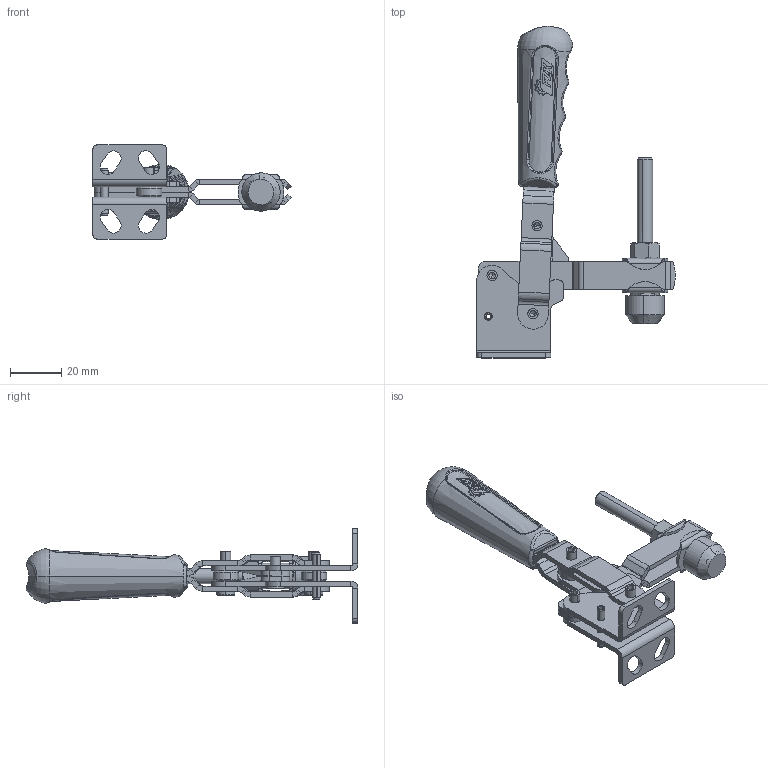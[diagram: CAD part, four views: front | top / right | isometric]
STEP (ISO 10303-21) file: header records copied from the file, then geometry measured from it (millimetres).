
FILE_DESCRIPTION (( 'STEP AP214' ), '1' );
FILE_NAME ('201_BLU.STEP', '2024-09-09T16:26:28', ( '' ), ( '' ), 'SwSTEP 2.0', 'SolidWorks 2023', '' );
FILE_SCHEMA (( 'AUTOMOTIVE_DESIGN' ));
Length unit declared in the file: millimetre
Products named in the file (17): FZK_201_B_02A_00; FZK_201_BL_01_00; M6 PUL DIN125; FZK_201_B_04_00; FZK_201_B_05_00; FZK_201_B_8_00; FZK_201_BLU_01_00; FZK_201_BL_02_00; hex bolt gradeb_din_ISO 4015 - M6 x 60 x 60-N; FZK_201_B_06_00; 201_BLU; spring pin slotted_hd_din_Spring Pin ISO 8752 - 3 x 18 - St; M6 PABUÇ; hex nut gradec_din_Hexagon Nut ISO 4034 - M6 - N; FZK_201_B_7_00; FZK_201_B_02_00; DALDIRMA SAP
Assembly tree (23 placements, depth 3):
  201_BLU
    DALDIRMA SAP
    M6 PUL DIN125  x2
    FZK_201_B_06_00  x2
    FZK_201_BLU_01_00  x2
    FZK_201_B_7_00  x2
    FZK_201_B_8_00  x2
    spring pin slotted_hd_din_Spring Pin ISO 8752 - 3 x 18 - St
    hex nut gradec_din_Hexagon Nut ISO 4034 - M6 - N  x2
    hex bolt gradeb_din_ISO 4015 - M6 x 60 x 60-N
    M6 PABUÇ
    FZK_201_BL_01_00
    FZK_201_BL_02_00
    FZK_201_B_04_00
    FZK_201_B_05_00
    FZK_201_B_02_00
      FZK_201_B_02A_00  x2
Bounding box: 77.66 x 129.85 x 37 mm (x, y, z)
Volume: 33651.5 mm3; surface area: 30045.7 mm2
Topology: 22 solids, 22 shells, 831 faces, 1956 edges, 1175 vertices
Faces by surface type: plane 256, cylinder 243, bspline 221, cone 85, sphere 20, torus 6
Entity records: 32277 total; most frequent: CARTESIAN_POINT 18353, ORIENTED_EDGE 3096, DIRECTION 2240, EDGE_CURVE 1548, VERTEX_POINT 955, AXIS2_PLACEMENT_3D 892, EDGE_LOOP 705, FACE_OUTER_BOUND 643
